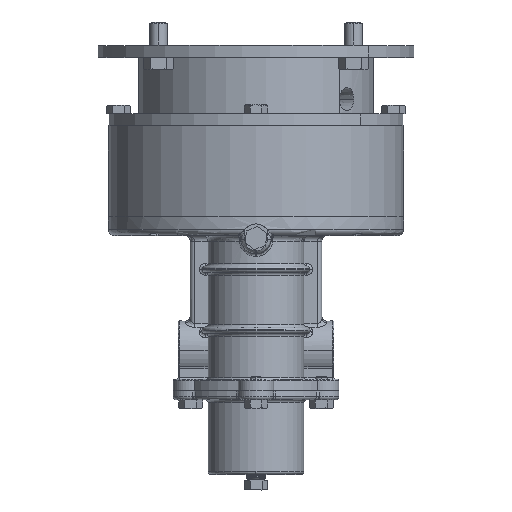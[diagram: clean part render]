
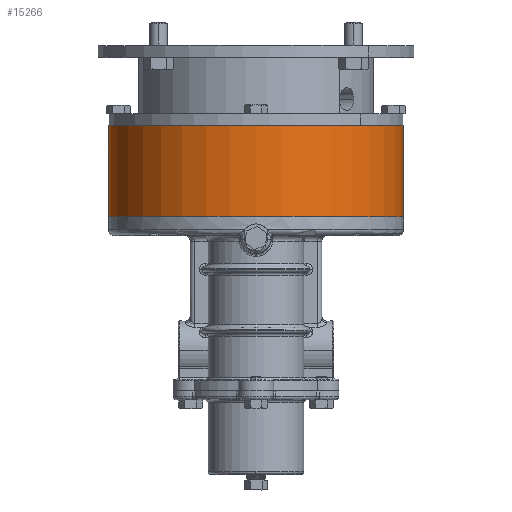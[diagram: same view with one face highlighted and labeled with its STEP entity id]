
A CAD part, top view. The second image highlights one B-rep face of the part: STEP entity #15266.
In plain terms, the highlighted cylindrical face has radius 79.756 mm (diameter 159.512 mm), a partial arc.
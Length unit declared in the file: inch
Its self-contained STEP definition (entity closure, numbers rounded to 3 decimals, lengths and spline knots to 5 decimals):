
#98 = ORIENTED_EDGE ( 'NONE', *, *, #12876, .F. ) ;
#1422 = ORIENTED_EDGE ( 'NONE', *, *, #6662, .F. ) ;
#1612 = ORIENTED_EDGE ( 'NONE', *, *, #1647, .T. ) ;
#1647 = EDGE_CURVE ( 'NONE', #18987, #11987, #14871, .T. ) ;
#2733 = CARTESIAN_POINT ( 'NONE',  ( 0., 0.9685, 3.14 ) ) ;
#2892 = LINE ( 'NONE', #10777, #30692 ) ;
#3712 = CARTESIAN_POINT ( 'NONE',  ( 0., -0.9685, 0. ) ) ;
#5152 = AXIS2_PLACEMENT_3D ( 'NONE', #10029, #15162, #26247 ) ;
#6233 = EDGE_LOOP ( 'NONE', ( #98, #1612, #28336, #1422 ) ) ;
#6658 = CARTESIAN_POINT ( 'NONE',  ( 0., 0.9685, -3.14 ) ) ;
#6662 = EDGE_CURVE ( 'NONE', #20049, #32035, #28581, .T. ) ;
#7893 = AXIS2_PLACEMENT_3D ( 'NONE', #22792, #26256, #23500 ) ;
#8877 = FACE_OUTER_BOUND ( 'NONE', #6233, .T. ) ;
#10029 = CARTESIAN_POINT ( 'NONE',  ( 0., 0.9685, 0. ) ) ;
#10777 = CARTESIAN_POINT ( 'NONE',  ( 0., -0.9685, -3.14 ) ) ;
#11987 = VERTEX_POINT ( 'NONE', #12741 ) ;
#12741 = CARTESIAN_POINT ( 'NONE',  ( 0., -0.9685, 3.14 ) ) ;
#12876 = EDGE_CURVE ( 'NONE', #18987, #20049, #2892, .T. ) ;
#14365 = VECTOR ( 'NONE', #35376, 39.37008 ) ;
#14871 = CIRCLE ( 'NONE', #7893, 3.14 ) ;
#15162 = DIRECTION ( 'NONE',  ( 0., 1., 0. ) ) ;
#15266 = ADVANCED_FACE ( 'NONE', ( #8877 ), #25235, .T. ) ;
#15891 = LINE ( 'NONE', #29545, #14365 ) ;
#16428 = DIRECTION ( 'NONE',  ( 0., 1., 0. ) ) ;
#18987 = VERTEX_POINT ( 'NONE', #19614 ) ;
#19614 = CARTESIAN_POINT ( 'NONE',  ( 0., -0.9685, -3.14 ) ) ;
#20049 = VERTEX_POINT ( 'NONE', #6658 ) ;
#20330 = DIRECTION ( 'NONE',  ( 0., 0., 1. ) ) ;
#22792 = CARTESIAN_POINT ( 'NONE',  ( 0., -0.9685, 0. ) ) ;
#23500 = DIRECTION ( 'NONE',  ( 0., 0., 1. ) ) ;
#25235 = CYLINDRICAL_SURFACE ( 'NONE', #30983, 3.14 ) ;
#26247 = DIRECTION ( 'NONE',  ( 0., 0., 1. ) ) ;
#26256 = DIRECTION ( 'NONE',  ( 0., 1., 0. ) ) ;
#27633 = EDGE_CURVE ( 'NONE', #11987, #32035, #15891, .T. ) ;
#28336 = ORIENTED_EDGE ( 'NONE', *, *, #27633, .T. ) ;
#28581 = CIRCLE ( 'NONE', #5152, 3.14 ) ;
#29545 = CARTESIAN_POINT ( 'NONE',  ( 0., -0.9685, 3.14 ) ) ;
#30692 = VECTOR ( 'NONE', #16428, 39.37008 ) ;
#30732 = DIRECTION ( 'NONE',  ( 0., 1., 0. ) ) ;
#30983 = AXIS2_PLACEMENT_3D ( 'NONE', #3712, #30732, #20330 ) ;
#32035 = VERTEX_POINT ( 'NONE', #2733 ) ;
#35376 = DIRECTION ( 'NONE',  ( 0., 1., 0. ) ) ;
